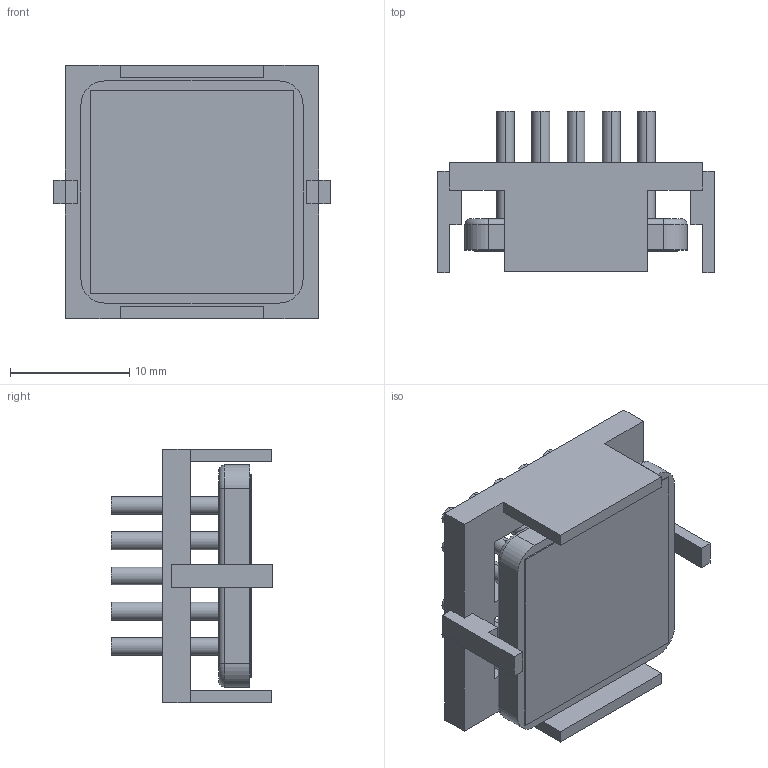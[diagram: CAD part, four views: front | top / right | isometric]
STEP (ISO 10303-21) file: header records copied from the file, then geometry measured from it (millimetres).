
FILE_DESCRIPTION (( 'STEP AP214' ), '1' );
FILE_NAME ('INM19002-12PCU-2.6BU.STEP', '2023-03-02T22:56:19', ( '' ), ( '' ), 'SwSTEP 2.0', 'SolidWorks 2020', '' );
FILE_SCHEMA (( 'AUTOMOTIVE_DESIGN' ));
Length unit declared in the file: millimetre
Products named in the file (1): INM19002-12PCU-2.6BU
Bounding box: 23.2 x 13.5 x 21.2 mm (x, y, z)
Volume: 2098.6 mm3; surface area: 3732.9 mm2
Topology: 3 solids, 3 shells, 133 faces, 310 edges, 204 vertices
Faces by surface type: plane 79, cylinder 50, torus 4
Entity records: 5323 total; most frequent: DIRECTION 682, CARTESIAN_POINT 648, ORIENTED_EDGE 620, EDGE_CURVE 310, AXIS2_PLACEMENT_3D 238, LINE 206, VECTOR 206, VERTEX_POINT 204
